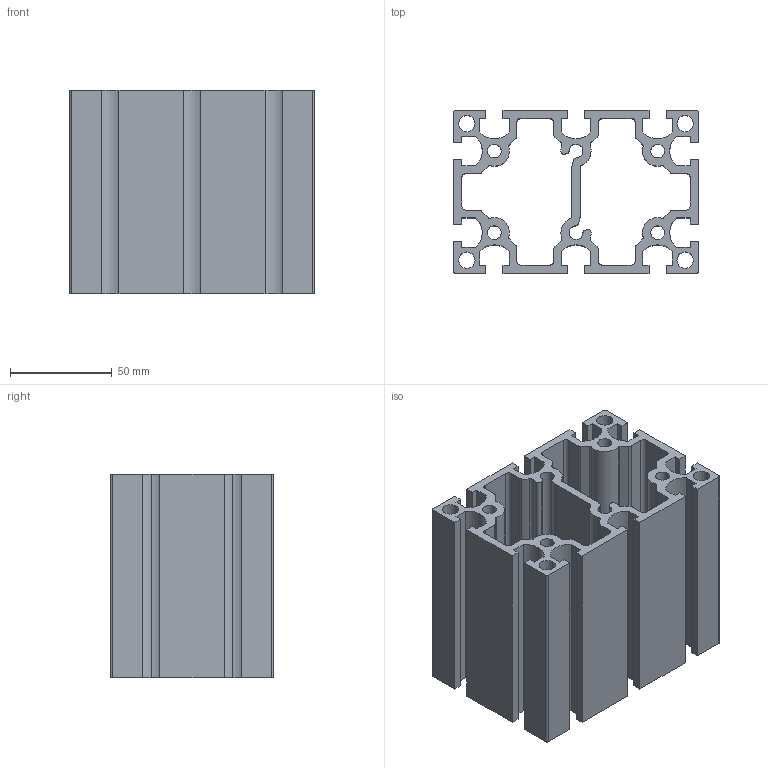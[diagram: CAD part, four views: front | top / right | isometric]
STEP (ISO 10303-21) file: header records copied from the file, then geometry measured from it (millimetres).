
FILE_DESCRIPTION (( 'STEP AP203' ), '1' );
FILE_NAME ('WS80120-8.STEP', '2024-02-19T05:34:12', ( '' ), ( '' ), 'SwSTEP 2.0', 'SolidWorks 2022', '' );
FILE_SCHEMA (( 'CONFIG_CONTROL_DESIGN' ));
Length unit declared in the file: millimetre
Products named in the file (1): WS80120-8
Bounding box: 120 x 80 x 100 mm (x, y, z)
Volume: 278857.6 mm3; surface area: 147193.1 mm2
Topology: 1 solids, 1 shells, 209 faces, 621 edges, 414 vertices
Faces by surface type: plane 108, cylinder 101
Entity records: 7174 total; most frequent: CARTESIAN_POINT 1245, DIRECTION 1243, ORIENTED_EDGE 1242, EDGE_CURVE 621, VECTOR 419, LINE 419, VERTEX_POINT 414, AXIS2_PLACEMENT_3D 412
